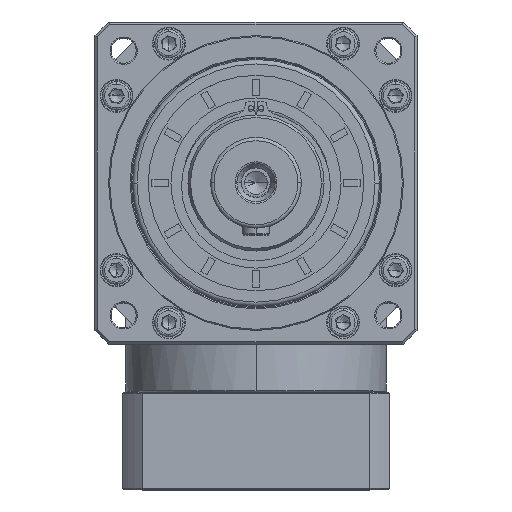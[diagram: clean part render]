
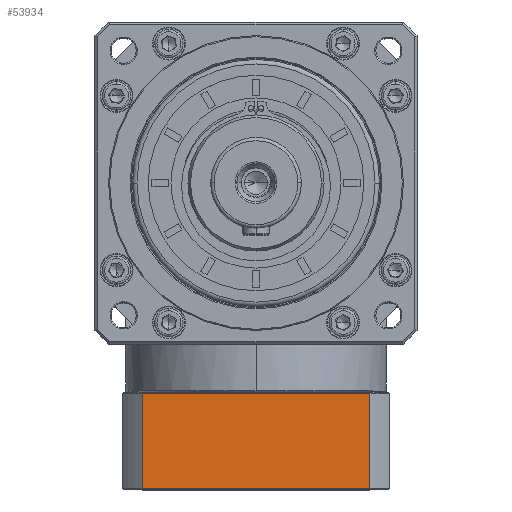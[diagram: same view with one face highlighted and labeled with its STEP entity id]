
A CAD part, top view. The second image highlights one B-rep face of the part: STEP entity #53934.
In plain terms, the highlighted planar face has unit normal (0, 0, 1).
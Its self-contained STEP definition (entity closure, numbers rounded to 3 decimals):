
#6401 = VECTOR ( 'NONE', #75387, 1000. ) ;
#15195 = LINE ( 'NONE', #161415, #6401 ) ;
#15671 = VECTOR ( 'NONE', #168749, 1000. ) ;
#29398 = ORIENTED_EDGE ( 'NONE', *, *, #51673, .F. ) ;
#32811 = DIRECTION ( 'NONE',  ( 0., 1., 0. ) ) ;
#34067 = CARTESIAN_POINT ( 'NONE',  ( -221.585, -199.267, 58.489 ) ) ;
#45700 = VECTOR ( 'NONE', #32811, 1000. ) ;
#46619 = VERTEX_POINT ( 'NONE', #71412 ) ;
#51673 = EDGE_CURVE ( 'NONE', #46619, #59105, #124158, .T. ) ;
#53934 = ADVANCED_FACE ( 'NONE', ( #76388 ), #69514, .F. ) ;
#56941 = LINE ( 'NONE', #180180, #79039 ) ;
#57583 = VERTEX_POINT ( 'NONE', #74683 ) ;
#59105 = VERTEX_POINT ( 'NONE', #103846 ) ;
#65376 = VERTEX_POINT ( 'NONE', #78220 ) ;
#66143 = EDGE_LOOP ( 'NONE', ( #120269, #145674, #123802, #29398 ) ) ;
#69514 = PLANE ( 'NONE',  #80389 ) ;
#71412 = CARTESIAN_POINT ( 'NONE',  ( -121.081, -198.767, 58.489 ) ) ;
#72936 = EDGE_CURVE ( 'NONE', #59105, #65376, #83364, .T. ) ;
#74683 = CARTESIAN_POINT ( 'NONE',  ( -121.081, -156.767, 58.489 ) ) ;
#75387 = DIRECTION ( 'NONE',  ( 1., 0., 0. ) ) ;
#76388 = FACE_OUTER_BOUND ( 'NONE', #66143, .T. ) ;
#78220 = CARTESIAN_POINT ( 'NONE',  ( -221.585, -156.767, 58.489 ) ) ;
#79039 = VECTOR ( 'NONE', #95284, 1000. ) ;
#80389 = AXIS2_PLACEMENT_3D ( 'NONE', #126352, #98005, #84364 ) ;
#81249 = EDGE_CURVE ( 'NONE', #65376, #57583, #15195, .T. ) ;
#83364 = LINE ( 'NONE', #34067, #45700 ) ;
#84364 = DIRECTION ( 'NONE',  ( -1., 0., 0. ) ) ;
#95284 = DIRECTION ( 'NONE',  ( 0., -1., 0. ) ) ;
#98005 = DIRECTION ( 'NONE',  ( 0., 0., -1. ) ) ;
#103846 = CARTESIAN_POINT ( 'NONE',  ( -221.585, -198.767, 58.489 ) ) ;
#120269 = ORIENTED_EDGE ( 'NONE', *, *, #137971, .F. ) ;
#123802 = ORIENTED_EDGE ( 'NONE', *, *, #72936, .F. ) ;
#124158 = LINE ( 'NONE', #139557, #15671 ) ;
#126352 = CARTESIAN_POINT ( 'NONE',  ( -230.333, -199.267, 58.489 ) ) ;
#137971 = EDGE_CURVE ( 'NONE', #57583, #46619, #56941, .T. ) ;
#139557 = CARTESIAN_POINT ( 'NONE',  ( -230.333, -198.767, 58.489 ) ) ;
#145674 = ORIENTED_EDGE ( 'NONE', *, *, #81249, .F. ) ;
#161415 = CARTESIAN_POINT ( 'NONE',  ( -230.333, -156.767, 58.489 ) ) ;
#168749 = DIRECTION ( 'NONE',  ( -1., 0., 0. ) ) ;
#180180 = CARTESIAN_POINT ( 'NONE',  ( -121.081, 65.128, 58.489 ) ) ;
